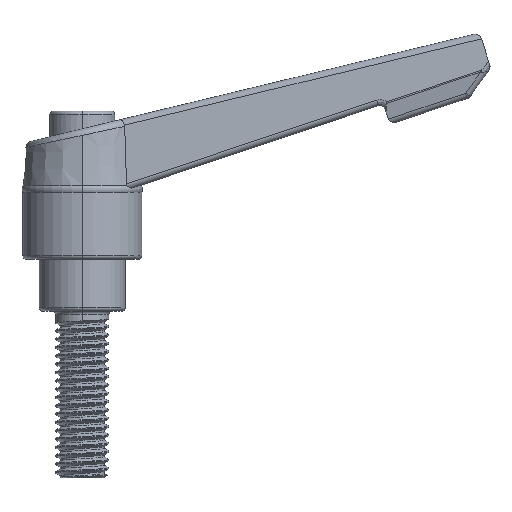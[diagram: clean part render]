
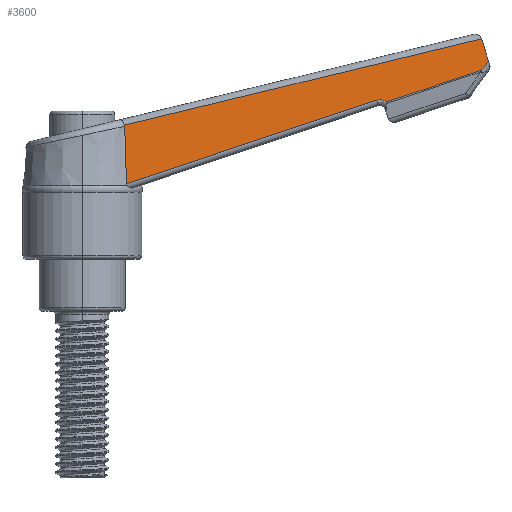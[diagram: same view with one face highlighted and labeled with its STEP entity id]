
A CAD part, top view. The second image highlights one B-rep face of the part: STEP entity #3600.
In plain terms, the highlighted planar face has unit normal (-0.001, 0.071, 0.997).
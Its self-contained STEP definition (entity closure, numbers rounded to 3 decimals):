
#92 = ORIENTED_EDGE ( 'NONE', *, *, #6240, .T. ) ;
#118 = ORIENTED_EDGE ( 'NONE', *, *, #6187, .F. ) ;
#227 = VECTOR ( 'NONE', #1902, 1000. ) ;
#360 = ORIENTED_EDGE ( 'NONE', *, *, #3541, .T. ) ;
#389 = LINE ( 'NONE', #5282, #6404 ) ;
#643 = CARTESIAN_POINT ( 'NONE',  ( 6.633, 19.103, 5.85 ) ) ;
#733 = DIRECTION ( 'NONE',  ( -0.001, 0.071, 0.997 ) ) ;
#735 = VERTEX_POINT ( 'NONE', #3763 ) ;
#817 = VERTEX_POINT ( 'NONE', #7094 ) ;
#1019 = VERTEX_POINT ( 'NONE', #643 ) ;
#1058 = CARTESIAN_POINT ( 'NONE',  ( 59.91, 40.864, 4.364 ) ) ;
#1233 = CARTESIAN_POINT ( 'NONE',  ( 6.456, 24.912, 5.433 ) ) ;
#1272 = CARTESIAN_POINT ( 'NONE',  ( 6.34, 27.91, 5.218 ) ) ;
#1292 = LINE ( 'NONE', #6046, #227 ) ;
#1310 = CARTESIAN_POINT ( 'NONE',  ( 6.633, 19.103, 5.85 ) ) ;
#1390 = CARTESIAN_POINT ( 'NONE',  ( 60.013, 36.199, 4.698 ) ) ;
#1447 = B_SPLINE_CURVE_WITH_KNOTS ( 'NONE', 3,
 ( #1272, #1757, #7889, #4856 ),
 .UNSPECIFIED., .F., .F.,
 ( 4, 4 ),
 ( 0., 0. ),
 .UNSPECIFIED. ) ;
#1506 = AXIS2_PLACEMENT_3D ( 'NONE', #7486, #733, #3212 ) ;
#1562 = VERTEX_POINT ( 'NONE', #6609 ) ;
#1757 = CARTESIAN_POINT ( 'NONE',  ( 6.356, 27.85, 5.223 ) ) ;
#1762 = VECTOR ( 'NONE', #6384, 1000. ) ;
#1902 = DIRECTION ( 'NONE',  ( 0.948, 0.318, -0.021 ) ) ;
#1904 = VERTEX_POINT ( 'NONE', #1058 ) ;
#1951 = CARTESIAN_POINT ( 'NONE',  ( 59.776, 36.12, 4.704 ) ) ;
#2030 = LINE ( 'NONE', #6956, #1762 ) ;
#2441 = VERTEX_POINT ( 'NONE', #4992 ) ;
#2639 = VERTEX_POINT ( 'NONE', #7614 ) ;
#2669 =( BOUNDED_CURVE ( )  B_SPLINE_CURVE ( 3, ( #1951, #1390, #6879, #6392 ),
 .UNSPECIFIED., .F., .F. ) 
 B_SPLINE_CURVE_WITH_KNOTS ( ( 4, 4 ),
 ( 3.366, 5.246 ),
 .UNSPECIFIED. ) 
 CURVE ( )  GEOMETRIC_REPRESENTATION_ITEM ( )  RATIONAL_B_SPLINE_CURVE ( ( 1., 0.726, 0.726, 1. ) ) 
 REPRESENTATION_ITEM ( '' )  );
#2810 = CARTESIAN_POINT ( 'NONE',  ( 45.675, 31.396, 5.023 ) ) ;
#2858 = DIRECTION ( 'NONE',  ( -0.972, -0.235, 0.015 ) ) ;
#3167 = FACE_OUTER_BOUND ( 'NONE', #6265, .T. ) ;
#3212 = DIRECTION ( 'NONE',  ( 0., -0.997, 0.071 ) ) ;
#3417 = EDGE_CURVE ( 'NONE', #1904, #1562, #389, .T. ) ;
#3541 = EDGE_CURVE ( 'NONE', #1019, #735, #1292, .T. ) ;
#3600 = ADVANCED_FACE ( 'NONE', ( #3167 ), #5034, .T. ) ;
#3666 = EDGE_CURVE ( 'NONE', #2639, #1904, #2030, .T. ) ;
#3763 = CARTESIAN_POINT ( 'NONE',  ( 44.157, 31.672, 5.001 ) ) ;
#3800 = CARTESIAN_POINT ( 'NONE',  ( 6.367, 27.728, 5.231 ) ) ;
#4370 = CARTESIAN_POINT ( 'NONE',  ( 6.545, 22.037, 5.639 ) ) ;
#4373 = VECTOR ( 'NONE', #7943, 1000. ) ;
#4379 = CARTESIAN_POINT ( 'NONE',  ( 59.919, 36.168, 4.7 ) ) ;
#4412 = EDGE_CURVE ( 'NONE', #817, #2441, #4983, .T. ) ;
#4694 =( BOUNDED_CURVE ( )  B_SPLINE_CURVE ( 3, ( #6557, #7050, #6516, #2810 ),
 .UNSPECIFIED., .F., .F. ) 
 B_SPLINE_CURVE_WITH_KNOTS ( ( 4, 4 ),
 ( 2.838, 3.844 ),
 .UNSPECIFIED. ) 
 CURVE ( )  GEOMETRIC_REPRESENTATION_ITEM ( )  RATIONAL_B_SPLINE_CURVE ( ( 1., 0.917, 0.917, 1. ) ) 
 REPRESENTATION_ITEM ( '' )  );
#4760 = ORIENTED_EDGE ( 'NONE', *, *, #4412, .T. ) ;
#4765 = VERTEX_POINT ( 'NONE', #6252 ) ;
#4856 = CARTESIAN_POINT ( 'NONE',  ( 6.367, 27.728, 5.231 ) ) ;
#4983 = LINE ( 'NONE', #4379, #4373 ) ;
#4992 = CARTESIAN_POINT ( 'NONE',  ( 59.776, 36.12, 4.704 ) ) ;
#5019 = EDGE_CURVE ( 'NONE', #735, #817, #4694, .T. ) ;
#5034 = PLANE ( 'NONE',  #1506 ) ;
#5282 = CARTESIAN_POINT ( 'NONE',  ( 6.551, 27.961, 5.215 ) ) ;
#6039 = ORIENTED_EDGE ( 'NONE', *, *, #6760, .T. ) ;
#6046 = CARTESIAN_POINT ( 'NONE',  ( 44.899, 31.921, 4.984 ) ) ;
#6187 = EDGE_CURVE ( 'NONE', #1019, #4765, #7413, .T. ) ;
#6240 = EDGE_CURVE ( 'NONE', #1562, #4765, #1447, .T. ) ;
#6252 = CARTESIAN_POINT ( 'NONE',  ( 6.367, 27.728, 5.231 ) ) ;
#6265 = EDGE_LOOP ( 'NONE', ( #7992, #6368, #92, #118, #360, #6638, #4760, #6039 ) ) ;
#6368 = ORIENTED_EDGE ( 'NONE', *, *, #3417, .T. ) ;
#6384 = DIRECTION ( 'NONE',  ( -0.302, 0.951, -0.069 ) ) ;
#6392 = CARTESIAN_POINT ( 'NONE',  ( 60.968, 37.528, 4.604 ) ) ;
#6404 = VECTOR ( 'NONE', #2858, 1000. ) ;
#6516 = CARTESIAN_POINT ( 'NONE',  ( 45.241, 31.75, 4.997 ) ) ;
#6557 = CARTESIAN_POINT ( 'NONE',  ( 44.157, 31.672, 5.001 ) ) ;
#6609 = CARTESIAN_POINT ( 'NONE',  ( 6.34, 27.91, 5.218 ) ) ;
#6638 = ORIENTED_EDGE ( 'NONE', *, *, #5019, .T. ) ;
#6760 = EDGE_CURVE ( 'NONE', #2441, #2639, #2669, .T. ) ;
#6879 = CARTESIAN_POINT ( 'NONE',  ( 60.561, 36.845, 4.653 ) ) ;
#6956 = CARTESIAN_POINT ( 'NONE',  ( 59.628, 41.753, 4.3 ) ) ;
#7050 = CARTESIAN_POINT ( 'NONE',  ( 44.689, 31.851, 4.989 ) ) ;
#7094 = CARTESIAN_POINT ( 'NONE',  ( 45.675, 31.396, 5.023 ) ) ;
#7413 =( BOUNDED_CURVE ( )  B_SPLINE_CURVE ( 3, ( #1310, #4370, #1233, #3800 ),
 .UNSPECIFIED., .F., .F. ) 
 B_SPLINE_CURVE_WITH_KNOTS ( ( 4, 4 ),
 ( 2.667, 2.688 ),
 .UNSPECIFIED. ) 
 CURVE ( )  GEOMETRIC_REPRESENTATION_ITEM ( )  RATIONAL_B_SPLINE_CURVE ( ( 1., 1., 1., 1. ) ) 
 REPRESENTATION_ITEM ( '' )  );
#7486 = CARTESIAN_POINT ( 'NONE',  ( 59.628, 41.753, 4.3 ) ) ;
#7614 = CARTESIAN_POINT ( 'NONE',  ( 60.968, 37.528, 4.604 ) ) ;
#7889 = CARTESIAN_POINT ( 'NONE',  ( 6.365, 27.79, 5.227 ) ) ;
#7943 = DIRECTION ( 'NONE',  ( 0.948, 0.318, -0.021 ) ) ;
#7992 = ORIENTED_EDGE ( 'NONE', *, *, #3666, .T. ) ;
